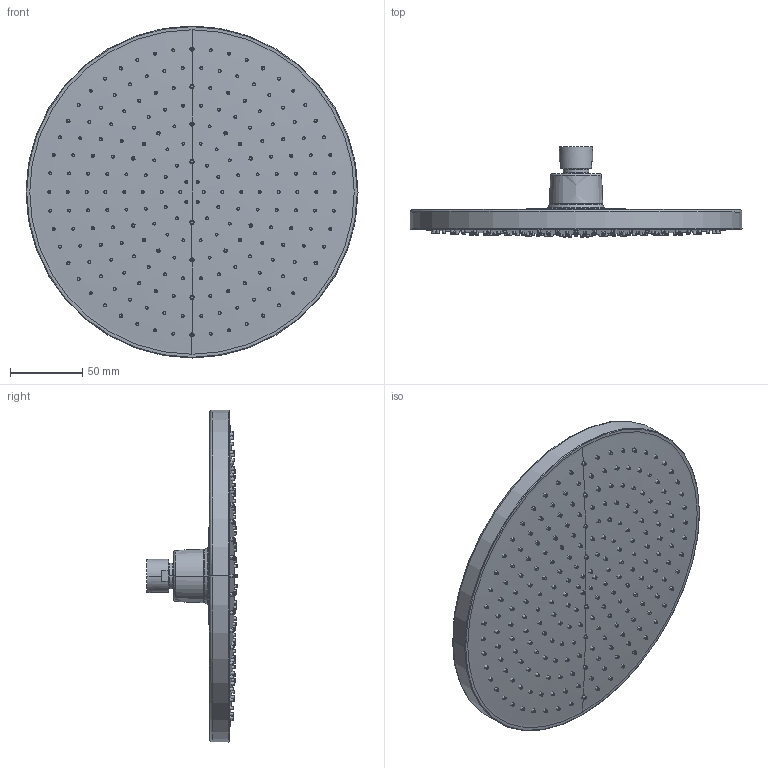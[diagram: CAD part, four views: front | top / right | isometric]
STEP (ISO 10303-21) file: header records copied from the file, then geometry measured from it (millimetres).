
FILE_DESCRIPTION((''),'2;1');
FILE_NAME('59684--00_SCRINKWRAP','2026-09-08T08:04:11',('clra1'),(''),'CREO PARAMETRIC BY PTC INC, 2022244','CREO PARAMETRIC BY PTC INC, 2022244','');
FILE_SCHEMA(('CONFIG_CONTROL_DESIGN'));
Length unit declared in the file: millimetre
Products named in the file (1): 59684--00_SCRINKWRAP
Bounding box: 229.99 x 62.4 x 229.99 mm (x, y, z)
Surface area: 145819.2 mm2 (no closed solid volume)
Topology: 0 solids, 244 shells, 1141 faces, 2795 edges, 1884 vertices
Faces by surface type: cone 456, torus 444, plane 223, cylinder 12, revolution 2, bspline 2, sphere 2
Entity records: 37176 total; most frequent: CARTESIAN_POINT 10296, DIRECTION 6350, ORIENTED_EDGE 5036, AXIS2_PLACEMENT_3D 2933, EDGE_CURVE 2789, VERTEX_POINT 1884, CIRCLE 1796, EDGE_LOOP 1141
